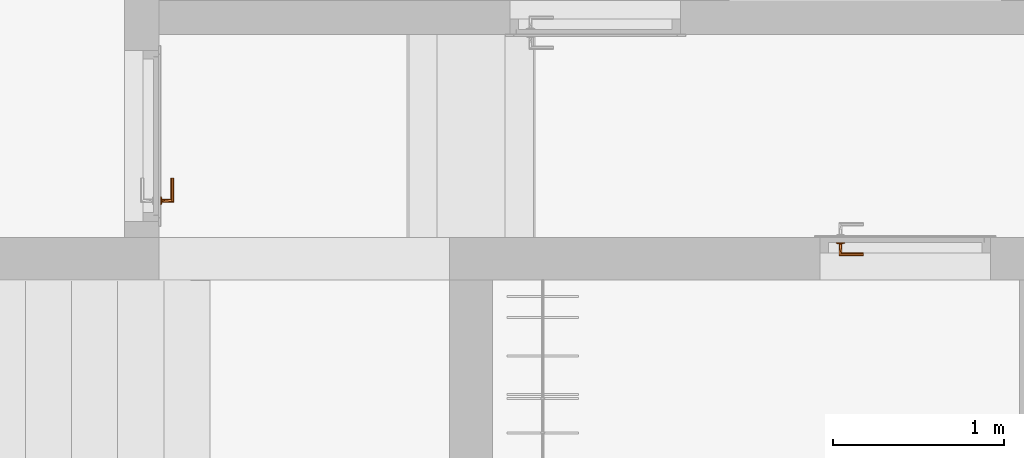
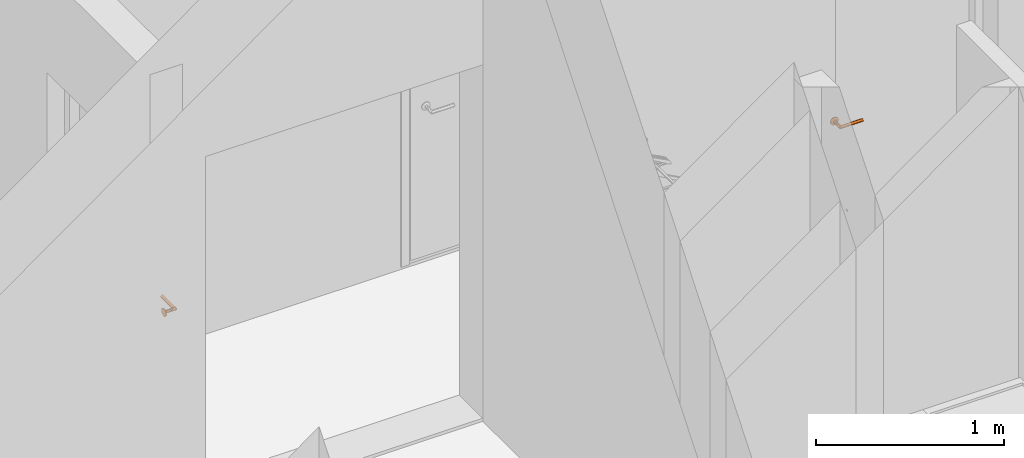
# One storey, part 99 of 125: 2 proxies.
"""IFC2X3 building model written with IfcOpenShell, lengths in millimetres."""

from ifc_helpers import new_model, entity, si_unit, converted_unit, direction, frame, origin, place, context, subcontext, project, spatial, faceted_brep, source, transform, mapped, material, type_object, type_shapes, element, save


model = new_model("IFC2X3")

# Units and contexts
model_context = context("Model", 3, precision=0.01, world=origin(), true_north=direction((6.123233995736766e-17, 1.0)))
plan_context = context("Plan", 3, precision=0.01, world=origin(), true_north=direction((6.123233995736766e-17, 1.0)))
body_context = subcontext(model_context, "Body", "Model", "MODEL_VIEW")
ifc_project = project(units=[si_unit("LENGTHUNIT", "METRE", prefix="MILLI"), converted_unit("PLANEANGLEUNIT", "DEGREE", entity("IfcPlaneAngleMeasure", 0.017453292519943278), si_unit("PLANEANGLEUNIT", "RADIAN"), dimensions=[0, 0, 0, 0, 0, 0, 0]), si_unit("AREAUNIT", "SQUARE_METRE")], contexts=[model_context, plan_context])

# Site, building, storey, space
site_placement = place(None, origin())
site = spatial("IfcSite", under=ifc_project, at=site_placement, Name="Default", CompositionType="ELEMENT")
building_placement = place(site_placement, origin())
building = spatial("IfcBuilding", under=site, at=building_placement, CompositionType="ELEMENT")
storey_placement = place(building_placement, frame((0.0, 0.0, 3125.0)))
storey = spatial("IfcBuildingStorey", under=building, at=storey_placement, Name="2K", CompositionType="ELEMENT", Elevation=3125.0)
space_placement = place(storey_placement, origin())
space = spatial("IfcSpace", under=storey, at=space_placement, Name="2-0.3", CompositionType="ELEMENT", InteriorOrExteriorSpace="INTERNAL")

# Proxies
ifc_material = material(Name="<Unnamed>")
building_element_proxy_type = type_object("IfcBuildingElementProxyType", Name="Door-handle_Lever_ABLOY_INOXI_3-19ss-002_RT:Default", PredefinedType="NOTDEFINED", material=ifc_material)
shared_shape = source(origin(), body_context, "Body", "Brep", [
    faceted_brep([(0.0, 0.0, 0.0), (8.034441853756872, 24.72746942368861, 0.0), (14.534441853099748, 20.00494299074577, 0.0), (21.034441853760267, 15.282416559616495, 0.0), (23.51722092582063, 7.641208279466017, 0.0), (26.0, 0.0, 0.0), (23.517220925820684, -7.641208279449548, 0.0), (0.0, 24.72746942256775, 0.0), (-8.034441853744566, 24.727469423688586, 0.0), (-14.534441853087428, 20.00494299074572, 0.0), (-21.03444185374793, 15.282416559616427, 0.0), (-23.517220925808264, 7.641208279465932, 0.0), (-26.0, 0.0, 0.0), (21.034441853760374, -15.282416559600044, 0.0), (14.534441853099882, -20.004942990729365, 0.0), (8.034441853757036, -24.72746942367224, 0.0), (0.0, -24.72746942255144, 0.0), (-23.517220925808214, -7.641208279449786, 0.0), (-21.034441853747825, -15.282416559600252, 0.0), (-14.53444185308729, -20.004942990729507, 0.0), (-8.0344418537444, -24.72746942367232, 0.0), (0.0, 0.0, 8.0), (9.500000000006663, 0.0, 8.0), (8.312500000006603, 2.056810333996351, 8.0), (7.125000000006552, 4.113620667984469, 8.0), (5.937500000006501, 6.170431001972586, 8.0), (4.7500000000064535, 8.227241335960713, 8.0), (2.375000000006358, 8.2272413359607, 8.0), (0.0, 8.227241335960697, 8.0), (-2.3749999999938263, 8.227241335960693, 8.0), (-4.749999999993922, 8.227241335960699, 8.0), (-5.937499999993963, 6.1704310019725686, 8.0), (-7.124999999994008, 4.1136206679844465, 8.0), (-8.312499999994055, 2.0568103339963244, 8.0), (-9.499999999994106, 0.0, 8.0), (-8.31249999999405, -2.0568103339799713, 8.0), (8.312500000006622, -2.0568103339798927, 8.0), (7.125000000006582, -4.113620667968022, 8.0), (5.937500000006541, -6.170431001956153, 8.0), (4.750000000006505, -8.227241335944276, 8.0), (-7.124999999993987, -4.113620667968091, 8.0), (-5.9374999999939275, -6.17043100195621, 8.0), (-4.74999999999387, -8.227241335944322, 8.0), (-2.374999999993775, -8.227241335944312, 8.0), (0.0, -8.227241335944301, 8.0), (2.3750000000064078, -8.227241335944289, 8.0), (-20.6430713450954, 6.292822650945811, 5.929480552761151), (-16.663919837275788, 7.932665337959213, 6.877259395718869), (-22.48876527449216, 10.806469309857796, 4.030771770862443), (-16.764060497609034, 3.8202578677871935, 7.1747985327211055), (-12.504579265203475, 5.179566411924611, 7.774932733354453), (-11.979136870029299, 13.678312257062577, 6.945778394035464), (-11.963426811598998, 8.62529041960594, 7.618343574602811), (-9.07172672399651, 10.31160661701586, 7.7520782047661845), (8.03444185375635, 24.727469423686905, 4.030771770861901), (0.0, 24.72746942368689, 4.030771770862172), (5.758554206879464, 20.96753300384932, 5.871476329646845), (20.643071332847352, 6.292822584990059, 5.929480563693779), (22.488765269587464, 10.806469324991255, 4.03077177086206), (16.66391982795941, 7.9326653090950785, 6.877259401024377), (9.49943163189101, 18.6436835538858, 6.154325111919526), (14.534441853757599, 20.004942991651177, 4.030771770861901), (-14.534441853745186, 20.00494299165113, 4.030771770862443), (-21.034441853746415, 15.282416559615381, 4.030771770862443), (-15.783149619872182, 11.991003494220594, 6.50080018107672), (-23.943088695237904, 6.330522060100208, 4.030771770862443), (-23.012042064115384, 0.0, 5.135401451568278), (12.50457924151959, 5.179566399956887, 7.774932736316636), (11.963426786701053, 8.625290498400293, 7.618343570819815), (16.76406041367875, 3.820257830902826, 7.17479855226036), (15.783149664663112, 11.991003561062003, 6.50080015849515), (23.01204200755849, 0.0, 5.135401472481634), (17.9853516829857, 0.0, 6.993737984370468), (8.661516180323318, 10.478936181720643, 7.768126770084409), (-3.3573143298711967, 21.197247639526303, 5.971427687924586), (-8.03444185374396, 24.727469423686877, 4.030771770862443), (-7.711266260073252, 12.76034452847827, 7.594456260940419), (-5.97325794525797, 16.43013906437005, 7.110979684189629), (-9.94191586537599, 17.061976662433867, 6.522757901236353), (11.979136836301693, 13.678312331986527, 6.945778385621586), (5.953298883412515, 16.50608604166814, 7.096344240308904), (7.511307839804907, 13.358932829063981, 7.529187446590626), (-1.5654593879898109, 15.307443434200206, 7.519134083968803), (-7.784980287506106, 20.476295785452, 5.812837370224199), (2.8135289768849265, 17.763922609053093, 6.993737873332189), (-17.985351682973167, 0.0, 6.993737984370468), (-26.0, 0.0, 4.030771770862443), (-23.51722092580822, 7.641208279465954, 4.030771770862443), (26.0, 0.0, 4.030771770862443), (24.308823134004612, 5.204907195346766, 4.030771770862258), (23.943088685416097, 6.330522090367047, 4.030771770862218), (21.03444185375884, 15.282416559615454, 4.030771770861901), (22.617646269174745, 10.40981439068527, 4.030771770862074), (20.6430713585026, -6.292822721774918, 5.929480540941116), (16.663919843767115, -7.932665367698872, 6.877259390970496), (22.48876527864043, -10.8064692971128, 4.030771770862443), (16.764060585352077, -3.8202579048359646, 7.174798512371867), (12.504579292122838, -5.17956641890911, 7.774932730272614), (11.979136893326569, -13.678312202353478, 6.9457784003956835), (11.963426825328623, -8.62529034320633, 7.618343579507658), (9.071726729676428, -10.311606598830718, 7.752078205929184), (-8.03444185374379, -24.727469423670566, 4.030771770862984), (0.0, -24.727469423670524, 4.030771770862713), (-5.758554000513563, -20.96753314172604, 5.8714763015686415), (-20.643071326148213, -6.292822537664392, 5.929480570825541), (-22.488765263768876, -10.80646934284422, 4.030771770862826), (-16.66391981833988, -7.932665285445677, 6.877259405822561), (-9.499431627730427, -18.643683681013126, 6.154325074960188), (-14.534441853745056, -20.004942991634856, 4.030771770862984), (14.53444185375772, -20.00494299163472, 4.030771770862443), (21.034441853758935, -15.282416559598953, 4.030771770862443), (15.783149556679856, -11.991003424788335, 6.5008002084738), (23.943088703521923, -6.330522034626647, 4.030771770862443), (-12.504579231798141, -5.17956638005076, 7.77493273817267), (-11.963426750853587, -8.625290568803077, 7.618343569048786), (-16.764060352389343, -3.8202577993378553, 7.174798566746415), (-15.783149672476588, -11.991003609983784, 6.500800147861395), (-8.661516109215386, -10.478936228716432, 7.768126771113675), (3.3573144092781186, -21.197247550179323, 5.971427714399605), (8.034441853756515, -24.727469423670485, 4.030771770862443), (7.711266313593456, -12.760344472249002, 7.5944562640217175), (5.9732581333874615, -16.430139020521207, 7.110979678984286), (9.941915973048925, -17.06197655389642, 6.522757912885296), (-11.979136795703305, -13.678312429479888, 6.945778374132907), (-5.953298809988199, -16.506086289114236, 7.096344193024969), (-7.511307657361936, -13.358932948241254, 7.5291874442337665), (1.5654596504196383, -15.3074431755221, 7.519134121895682), (7.784980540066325, -20.476295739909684, 5.812837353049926), (-2.81352881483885, -17.76392263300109, 6.993737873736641), (23.517220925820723, -7.64120827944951, 4.030771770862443), (-24.308823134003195, -5.20490719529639, 4.030771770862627), (-23.943088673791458, -6.330522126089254, 4.030771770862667), (-21.034441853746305, -15.282416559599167, 4.030771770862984), (-22.617646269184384, -10.409814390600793, 4.0307717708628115)], [[[0, 1, 2]], [[0, 2, 3]], [[0, 3, 4]], [[0, 4, 5]], [[0, 5, 6]], [[0, 7, 1]], [[0, 8, 7]], [[0, 9, 8]], [[0, 10, 9]], [[0, 11, 10]], [[0, 12, 11]], [[0, 6, 13]], [[0, 13, 14]], [[0, 14, 15]], [[0, 15, 16]], [[0, 17, 12]], [[0, 18, 17]], [[0, 19, 18]], [[0, 20, 19]], [[0, 16, 20]], [[21, 22, 23]], [[21, 23, 24]], [[21, 24, 25]], [[21, 25, 26]], [[21, 26, 27]], [[21, 27, 28]], [[21, 28, 29]], [[21, 29, 30]], [[21, 30, 31]], [[21, 31, 32]], [[21, 32, 33]], [[21, 33, 34]], [[21, 34, 35]], [[21, 36, 22]], [[21, 37, 36]], [[21, 38, 37]], [[21, 39, 38]], [[21, 35, 40]], [[21, 40, 41]], [[21, 41, 42]], [[21, 42, 43]], [[21, 43, 44]], [[21, 44, 45]], [[21, 45, 39]], [[46, 47, 48]], [[49, 50, 47]], [[33, 32, 50]], [[51, 52, 53]], [[32, 52, 50]], [[49, 47, 46]], [[54, 55, 56]], [[57, 58, 59]], [[60, 61, 54]], [[62, 63, 64]], [[46, 65, 66]], [[67, 59, 68]], [[23, 69, 67]], [[70, 68, 59]], [[23, 22, 69]], [[52, 51, 64]], [[71, 69, 72]], [[73, 25, 68]], [[74, 55, 75]], [[76, 77, 78]], [[70, 61, 79]], [[71, 57, 69]], [[60, 80, 81]], [[51, 76, 78]], [[77, 29, 82]], [[26, 81, 27]], [[74, 83, 77]], [[77, 82, 74]], [[74, 84, 55]], [[34, 49, 85]], [[23, 67, 24]], [[28, 84, 82]], [[74, 82, 84]], [[29, 76, 30]], [[29, 28, 82]], [[49, 34, 33]], [[47, 50, 52]], [[47, 52, 64]], [[50, 49, 33]], [[53, 76, 51]], [[52, 32, 31]], [[49, 66, 85]], [[86, 66, 65]], [[24, 67, 68]], [[83, 78, 77]], [[49, 46, 66]], [[48, 64, 63]], [[46, 48, 87, 65]], [[48, 47, 64]], [[59, 67, 69]], [[26, 73, 81]], [[79, 68, 70]], [[25, 24, 68]], [[71, 88, 89, 90]], [[22, 72, 69]], [[59, 69, 57]], [[79, 61, 60]], [[51, 62, 64]], [[70, 58, 91]], [[90, 57, 71]], [[58, 70, 59]], [[57, 90, 92]], [[79, 60, 81]], [[61, 70, 91]], [[56, 80, 60]], [[79, 81, 73]], [[80, 84, 27]], [[79, 73, 68]], [[27, 84, 28]], [[25, 73, 26]], [[77, 76, 29]], [[31, 30, 53]], [[78, 62, 51]], [[75, 62, 83]], [[78, 83, 62]], [[75, 83, 74]], [[76, 53, 30]], [[31, 53, 52]], [[81, 80, 27]], [[84, 80, 56]], [[84, 56, 55]], [[54, 56, 60]], [[93, 94, 95]], [[96, 97, 94]], [[36, 37, 97]], [[98, 99, 100]], [[37, 99, 97]], [[96, 94, 93]], [[101, 102, 103]], [[104, 105, 106]], [[107, 108, 101]], [[109, 110, 111]], [[93, 112, 71]], [[113, 106, 114]], [[35, 115, 113]], [[116, 114, 106]], [[35, 34, 115]], [[99, 98, 111]], [[66, 115, 85]], [[117, 41, 114]], [[118, 102, 119]], [[120, 121, 122]], [[116, 108, 123]], [[66, 104, 115]], [[107, 124, 125]], [[120, 45, 121]], [[121, 45, 126]], [[42, 125, 43]], [[118, 127, 121]], [[121, 126, 118]], [[118, 128, 102]], [[22, 96, 72]], [[35, 113, 40]], [[44, 128, 126]], [[118, 126, 128]], [[45, 120, 39]], [[45, 44, 126]], [[96, 22, 36]], [[94, 97, 99]], [[94, 99, 111]], [[97, 96, 36]], [[100, 120, 98]], [[99, 37, 38]], [[96, 71, 72]], [[88, 71, 112]], [[40, 113, 114]], [[127, 122, 121]], [[96, 93, 71]], [[95, 111, 110]], [[93, 95, 129, 112]], [[95, 94, 111]], [[106, 113, 115]], [[42, 117, 125]], [[123, 114, 116]], [[41, 40, 114]], [[66, 86, 130, 131]], [[34, 85, 115]], [[106, 115, 104]], [[123, 108, 107]], [[98, 109, 111]], [[116, 105, 132]], [[131, 104, 66]], [[105, 116, 106]], [[104, 131, 133]], [[123, 107, 125]], [[108, 116, 132]], [[103, 124, 107]], [[123, 125, 117]], [[124, 128, 43]], [[123, 117, 114]], [[43, 128, 44]], [[41, 117, 42]], [[38, 39, 100]], [[98, 120, 122]], [[122, 109, 98]], [[119, 109, 127]], [[122, 127, 109]], [[119, 127, 118]], [[120, 100, 39]], [[38, 100, 99]], [[125, 124, 43]], [[128, 124, 103]], [[128, 103, 102]], [[101, 103, 107]], [[9, 10, 63, 62, 75, 8]], [[11, 12, 86, 65, 87, 48, 63, 10]], [[4, 3, 92, 90, 89, 88, 5]], [[3, 91, 58]], [[55, 54, 1, 7, 8, 75]], [[3, 2, 1, 54, 61, 91]], [[13, 6, 5, 88, 112, 129, 95, 110]], [[119, 15, 14, 13, 110, 109]], [[17, 18, 133, 131, 130, 86, 12]], [[18, 132, 105]], [[102, 101, 20, 16, 15, 119]], [[18, 19, 20, 101, 108, 132]], [[57, 92, 58]], [[104, 133, 105]], [[3, 58, 92]], [[18, 105, 133]]]),
    faceted_brep([(0.0, 9.499999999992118, 8.0), (2.4587809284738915, 9.176295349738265, 8.0), (4.7499999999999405, 8.22724133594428, 8.0), (6.717514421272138, 6.7175144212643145, 8.0), (8.227241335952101, 4.749999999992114, 8.0), (9.17629534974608, 2.458780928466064, 8.0), (9.499999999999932, 0.0, 8.0), (9.17629534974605, -2.458780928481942, 8.0), (8.22724133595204, -4.75000000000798, 8.0), (6.717514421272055, -6.717514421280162, 8.0), (4.7499999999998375, -8.227241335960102, 8.0), (2.4587809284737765, -9.176295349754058, 8.0), (0.0, -9.500000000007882, 8.0), (-2.4587809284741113, -9.176295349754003, 8.0), (-4.750000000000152, -8.227241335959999, 8.0), (-6.717514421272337, -6.717514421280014, 8.0), (-8.227241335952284, -4.750000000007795, 8.0), (-9.176295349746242, -2.458780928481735, 8.0), (-9.500000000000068, 0.0, 8.0), (-9.176295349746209, 2.4587809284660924, 8.0), (-8.227241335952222, 4.74999999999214, 8.0), (-6.717514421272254, 6.717514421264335, 8.0), (-4.7500000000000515, 8.227241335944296, 8.0), (-2.4587809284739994, 9.176295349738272, 8.0), (-6.717514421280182, -6.7175144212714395, 61.282485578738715), (-8.227241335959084, -4.7499999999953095, 59.772758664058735), (-9.176295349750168, -2.458780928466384, 58.82370465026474), (-2.4587809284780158, -9.176295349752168, 65.54121907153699), (-4.750000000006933, -8.227241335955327, 63.25000000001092), (-9.500000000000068, 0.0, 58.50000000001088), (0.0, -9.50000000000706, 68.0), (2.4587809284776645, -9.17629534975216, 70.45878092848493), (4.750000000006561, -8.227241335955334, 72.75000000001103), (6.717514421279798, -6.7175144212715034, 74.71751442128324), (9.17629534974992, -2.458780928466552, 77.17629534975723), (8.22724133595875, -4.749999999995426, 76.22724133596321), (9.499999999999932, 0.0, 77.50000000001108), (9.176295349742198, 2.4587809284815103, 77.1762953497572), (8.227241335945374, 4.750000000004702, 76.22724133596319), (4.749999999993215, 8.227241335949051, 72.75000000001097), (6.7175144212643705, 6.717514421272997, 74.7175144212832), (2.4587809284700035, 9.17629534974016, 70.45878092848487), (-2.4587809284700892, 9.176295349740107, 65.54121907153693), (0.0, 9.49999999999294, 68.0), (-6.717514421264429, 6.717514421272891, 61.282485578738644), (-4.749999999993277, 8.227241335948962, 63.250000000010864), (-9.176295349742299, 2.458780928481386, 58.8237046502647), (-8.227241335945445, 4.750000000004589, 59.77275866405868), (-135.0, 9.500000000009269, 68.0), (-135.0, 9.176295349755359, 65.54121907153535), (-135.0, 8.227241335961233, 63.25000000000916), (-135.0, 6.7175144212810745, 61.28248557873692), (-135.0, 4.750000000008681, 59.772758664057), (-135.0, 2.458780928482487, 58.82370465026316), (-135.0, 0.0, 58.50000000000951), (-135.0, -2.458780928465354, 58.823704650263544), (-135.0, -4.749999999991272, 59.772758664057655), (-135.0, -6.717514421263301, 61.28248557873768), (-135.0, -8.227241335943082, 63.250000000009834), (-135.0, -9.17629534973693, 65.54121907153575), (-135.0, -9.499999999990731, 68.0), (-135.0, -9.17629534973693, 70.45878092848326), (-135.0, -8.227241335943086, 72.75000000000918), (-135.0, -6.717514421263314, 74.71751442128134), (-135.0, -4.749999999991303, 76.22724133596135), (-135.0, -2.4587809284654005, 77.17629534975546), (-135.0, 0.0, 77.5000000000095), (-135.0, 2.4587809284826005, 77.17629534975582), (-135.0, 4.750000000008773, 76.22724133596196), (-135.0, 6.717514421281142, 74.71751442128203), (-135.0, 8.227241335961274, 72.75000000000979), (-135.0, 9.176295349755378, 70.4587809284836)], [[[0, 1, 2, 3, 4, 5, 6, 7, 8, 9, 10, 11, 12, 13, 14, 15, 16, 17, 18, 19, 20, 21, 22, 23]], [[15, 24, 25, 16]], [[16, 25, 26, 17]], [[27, 28, 12]], [[12, 28, 13]], [[13, 28, 24]], [[18, 17, 26, 29]], [[24, 15, 14]], [[14, 13, 24]], [[11, 30, 27]], [[31, 9, 32]], [[32, 8, 33]], [[34, 35, 7]], [[7, 35, 33]], [[36, 34, 7, 6]], [[30, 11, 10]], [[11, 27, 12]], [[33, 8, 7]], [[8, 32, 9]], [[31, 10, 9]], [[10, 31, 30]], [[37, 36, 6, 5]], [[37, 5, 38]], [[39, 40, 4]], [[5, 40, 38]], [[41, 39, 3]], [[5, 4, 40]], [[42, 43, 1]], [[2, 1, 43]], [[2, 41, 3]], [[39, 4, 3]], [[2, 43, 41]], [[23, 44, 45]], [[0, 45, 42]], [[19, 18, 29, 46]], [[20, 19, 46, 47]], [[21, 20, 47, 44]], [[23, 22, 44]], [[45, 0, 23]], [[44, 22, 21]], [[1, 0, 42]], [[48, 49, 50, 51, 52, 53, 54, 55, 56, 57, 58, 59, 60, 61, 62, 63, 64, 65, 66, 67, 68, 69, 70, 71]], [[26, 25, 56, 55]], [[29, 26, 55, 54]], [[28, 27, 59, 58]], [[24, 28, 58, 57]], [[25, 24, 57, 56]], [[27, 30, 60, 59]], [[32, 33, 63, 62]], [[31, 32, 62, 61]], [[34, 36, 66, 65]], [[35, 34, 65, 64]], [[33, 35, 64, 63]], [[61, 60, 30, 31]], [[38, 68, 67, 37]], [[37, 67, 66, 36]], [[41, 71, 70, 39]], [[39, 70, 69, 40]], [[40, 69, 68, 38]], [[48, 71, 41, 43]], [[44, 51, 50, 45]], [[45, 50, 49, 42]], [[29, 54, 53, 46]], [[46, 53, 52, 47]], [[47, 52, 51, 44]], [[42, 49, 48, 43]]]),
])
type_shapes(building_element_proxy_type, [shared_shape])
proxy_1_placement = place(space_placement, frame((3354.99353497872, 6864.999979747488, 1000.0), z_axis=(1.0, 0.0, 0.0), x_axis=(0.0, -1.0, 0.0)))
element("IfcBuildingElementProxy", 1, at=proxy_1_placement, inside=space, type_object=building_element_proxy_type, material=ifc_material, Name="Door-handle_Lever_ABLOY_INOXI_3-19ss-002_RT:Default", ObjectType="Door-handle_Lever_ABLOY_INOXI_3-19ss-002_RT:Default", context=body_context, shape_type="MappedRepresentation", body=[
    mapped(shared_shape, transform((0.0, 0.0, 0.0), scale=1.0)),
])
proxy_2_placement = place(storey_placement, frame((7340.0, 6619.999959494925, 1000.0), z_axis=(0.0, -1.0, 0.0), x_axis=(-1.0, 0.0, 0.0)))
element("IfcBuildingElementProxy", 2, at=proxy_2_placement, inside=storey, type_object=building_element_proxy_type, material=ifc_material, Name="Door-handle_Lever_ABLOY_INOXI_3-19ss-002_RT:Default", ObjectType="Door-handle_Lever_ABLOY_INOXI_3-19ss-002_RT:Default", context=body_context, shape_type="MappedRepresentation", body=[
    mapped(shared_shape, transform((0.0, 0.0, 0.0), scale=1.0)),
])

save(model, "model.ifc")
